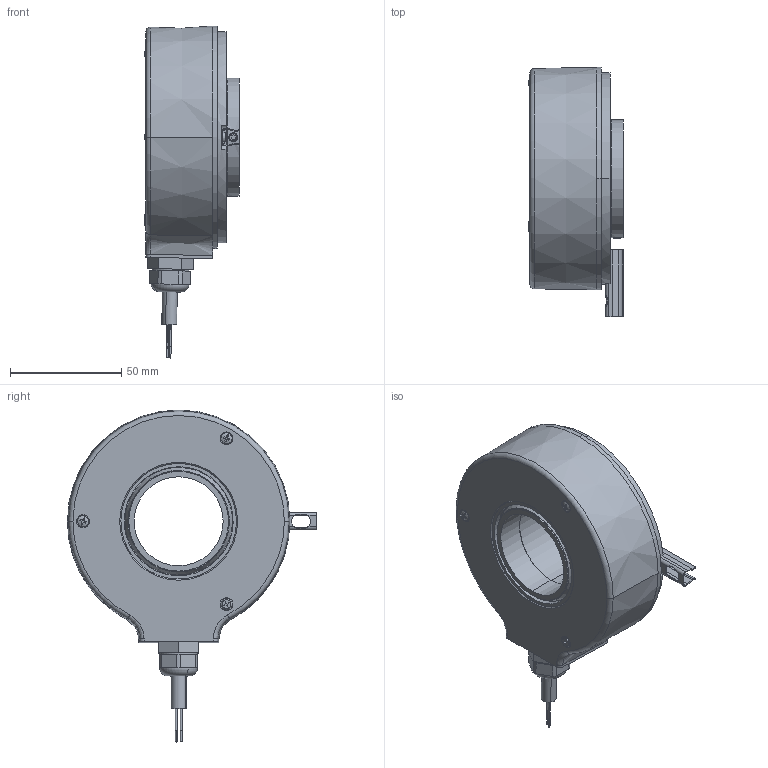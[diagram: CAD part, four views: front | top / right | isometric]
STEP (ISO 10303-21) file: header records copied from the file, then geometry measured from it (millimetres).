
FILE_DESCRIPTION (( 'STEP AP214' ), '1' );
FILE_NAME ('A020.3BX1.XXXX.STEP', '2011-03-25T08:51:48', ( 'admin' ), ( 'Fritz Kübler GmbH' ), 'SwSTEP 2.0', 'SolidWorks 2009', '' );
FILE_SCHEMA (( 'AUTOMOTIVE_DESIGN' ));
Length unit declared in the file: millimetre
Products named in the file (1): A020.3BX1.XXXX
Bounding box: 42.6 x 112 x 149.2 mm (x, y, z)
Surface area: 45208 mm2 (no closed solid volume)
Topology: 0 solids, 20 shells, 279 faces, 770 edges, 518 vertices
Faces by surface type: plane 131, cylinder 98, cone 27, torus 15, sphere 4, bspline 4
Entity records: 13084 total; most frequent: CARTESIAN_POINT 2658, DIRECTION 1647, ORIENTED_EDGE 1380, EDGE_CURVE 770, AXIS2_PLACEMENT_3D 631, VERTEX_POINT 518, LINE 385, VECTOR 385
